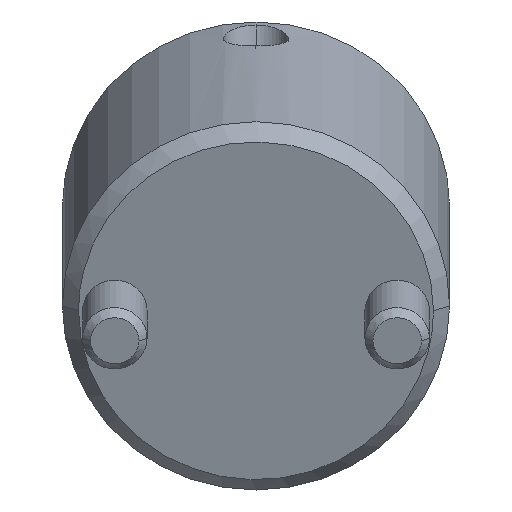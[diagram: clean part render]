
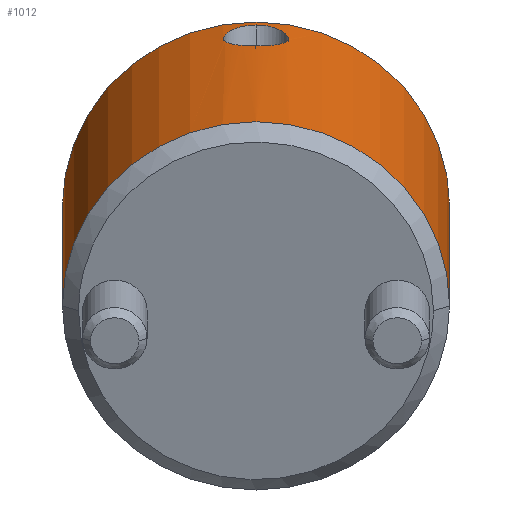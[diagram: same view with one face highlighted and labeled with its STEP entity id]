
A CAD part, front view. The second image highlights one B-rep face of the part: STEP entity #1012.
In plain terms, the highlighted cylindrical face has radius 12 mm (diameter 24 mm), a partial arc.
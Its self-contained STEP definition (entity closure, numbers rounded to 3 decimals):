
#778=CARTESIAN_POINT('Vertex',(0.,12.,1.)) ;
#781=CARTESIAN_POINT('Axis2P3D Location',(0.,0.,1.)) ;
#785=CARTESIAN_POINT('Vertex',(0.,-12.,1.)) ;
#925=CARTESIAN_POINT('Axis2P3D Location',(0.,0.,-1.1)) ;
#930=CARTESIAN_POINT('Line Origine',(0.,12.,-1.1)) ;
#934=CARTESIAN_POINT('Vertex',(0.,12.,21.)) ;
#937=CARTESIAN_POINT('Axis2P3D Location',(0.,0.,21.)) ;
#941=CARTESIAN_POINT('Vertex',(0.,-12.,21.)) ;
#944=CARTESIAN_POINT('Line Origine',(0.,-12.,-1.1)) ;
#956=CARTESIAN_POINT('Control Point',(12.,0.,20.403)) ;
#957=CARTESIAN_POINT('Control Point',(12.,0.341,20.403)) ;
#958=CARTESIAN_POINT('Control Point',(11.988,0.671,20.324)) ;
#959=CARTESIAN_POINT('Control Point',(11.964,0.986,20.166)) ;
#960=CARTESIAN_POINT('Control Point',(11.924,1.367,19.862)) ;
#961=CARTESIAN_POINT('Control Point',(11.886,1.651,19.463)) ;
#962=CARTESIAN_POINT('Control Point',(11.876,1.726,19.337)) ;
#963=CARTESIAN_POINT('Control Point',(11.856,1.854,19.075)) ;
#964=CARTESIAN_POINT('Control Point',(11.842,1.939,18.795)) ;
#965=CARTESIAN_POINT('Control Point',(11.837,1.97,18.649)) ;
#966=CARTESIAN_POINT('Control Point',(11.831,2.009,18.363)) ;
#967=CARTESIAN_POINT('Control Point',(11.832,2.,18.074)) ;
#968=CARTESIAN_POINT('Control Point',(11.835,1.984,17.931)) ;
#969=CARTESIAN_POINT('Control Point',(11.844,1.93,17.652)) ;
#970=CARTESIAN_POINT('Control Point',(11.86,1.83,17.388)) ;
#971=CARTESIAN_POINT('Control Point',(11.869,1.77,17.263)) ;
#972=CARTESIAN_POINT('Control Point',(11.89,1.629,17.023)) ;
#973=CARTESIAN_POINT('Control Point',(11.913,1.449,16.811)) ;
#974=CARTESIAN_POINT('Control Point',(11.924,1.351,16.714)) ;
#975=CARTESIAN_POINT('Control Point',(11.956,1.059,16.473)) ;
#976=CARTESIAN_POINT('Control Point',(11.982,0.714,16.305)) ;
#977=CARTESIAN_POINT('Control Point',(11.994,0.482,16.233)) ;
#978=CARTESIAN_POINT('Control Point',(12.,0.243,16.197)) ;
#979=CARTESIAN_POINT('Control Point',(12.,0.,16.197)) ;
#980=CARTESIAN_POINT('Vertex',(12.,0.,20.403)) ;
#982=CARTESIAN_POINT('Vertex',(12.,0.,16.197)) ;
#986=CARTESIAN_POINT('Control Point',(12.,0.,16.197)) ;
#987=CARTESIAN_POINT('Control Point',(12.,-0.277,16.197)) ;
#988=CARTESIAN_POINT('Control Point',(11.992,-0.549,16.243)) ;
#989=CARTESIAN_POINT('Control Point',(11.976,-0.815,16.339)) ;
#990=CARTESIAN_POINT('Control Point',(11.945,-1.178,16.546)) ;
#991=CARTESIAN_POINT('Control Point',(11.91,-1.473,16.837)) ;
#992=CARTESIAN_POINT('Control Point',(11.898,-1.562,16.941)) ;
#993=CARTESIAN_POINT('Control Point',(11.865,-1.806,17.285)) ;
#994=CARTESIAN_POINT('Control Point',(11.84,-1.957,17.684)) ;
#995=CARTESIAN_POINT('Control Point',(11.83,-2.011,17.97)) ;
#996=CARTESIAN_POINT('Control Point',(11.829,-2.022,18.405)) ;
#997=CARTESIAN_POINT('Control Point',(11.844,-1.93,18.83)) ;
#998=CARTESIAN_POINT('Control Point',(11.851,-1.887,18.97)) ;
#999=CARTESIAN_POINT('Control Point',(11.868,-1.78,19.243)) ;
#1000=CARTESIAN_POINT('Control Point',(11.889,-1.63,19.494)) ;
#1001=CARTESIAN_POINT('Control Point',(11.901,-1.545,19.614)) ;
#1002=CARTESIAN_POINT('Control Point',(11.937,-1.255,19.958)) ;
#1003=CARTESIAN_POINT('Control Point',(11.972,-0.885,20.214)) ;
#1004=CARTESIAN_POINT('Control Point',(11.99,-0.603,20.339)) ;
#1005=CARTESIAN_POINT('Control Point',(12.,-0.306,20.403)) ;
#1006=CARTESIAN_POINT('Control Point',(12.,0.,20.403)) ;
#782=DIRECTION('Axis2P3D Direction',(0.,0.,1.)) ;
#926=DIRECTION('Axis2P3D Direction',(0.,-0.,1.)) ;
#927=DIRECTION('Axis2P3D XDirection',(0.,-1.,0.)) ;
#931=DIRECTION('Vector Direction',(0.,0.,1.)) ;
#938=DIRECTION('Axis2P3D Direction',(0.,-0.,1.)) ;
#945=DIRECTION('Vector Direction',(0.,0.,1.)) ;
#783=AXIS2_PLACEMENT_3D('Circle Axis2P3D',#781,#782,$) ;
#928=AXIS2_PLACEMENT_3D('Cylinder Axis2P3D',#925,#926,#927) ;
#939=AXIS2_PLACEMENT_3D('Circle Axis2P3D',#937,#938,$) ;
#950=ORIENTED_EDGE('',*,*,#936,.F.) ;
#951=ORIENTED_EDGE('',*,*,#943,.T.) ;
#952=ORIENTED_EDGE('',*,*,#948,.T.) ;
#953=ORIENTED_EDGE('',*,*,#787,.F.) ;
#1009=ORIENTED_EDGE('',*,*,#984,.T.) ;
#1010=ORIENTED_EDGE('',*,*,#1007,.T.) ;
#1011=FACE_BOUND('',#1008,.T.) ;
#932=VECTOR('Line Direction',#931,1.) ;
#946=VECTOR('Line Direction',#945,1.) ;
#1012=ADVANCED_FACE('MANIFOLD_SOLID_BREP #1100',(#954,#1011),#929,.T.) ;
#955=B_SPLINE_CURVE_WITH_KNOTS('',5,(#956,#957,#958,#959,#960,#961,#962,#963,#964,#965,#966,#967,#968,#969,#970,#971,#972,#973,#974,#975,#976,#977,#978,#979),.UNSPECIFIED.,.F.,.U.,(6,3,3,3,3,3,3,6),(0.,2.411,3.437,4.458,5.457,6.442,7.421,9.138),.UNSPECIFIED.) ;
#985=B_SPLINE_CURVE_WITH_KNOTS('',5,(#986,#987,#988,#989,#990,#991,#992,#993,#994,#995,#996,#997,#998,#999,#1000,#1001,#1002,#1003,#1004,#1005,#1006),.UNSPECIFIED.,.F.,.U.,(6,3,3,3,3,3,6),(0.,1.96,2.94,4.935,5.963,6.984,9.144),.UNSPECIFIED.) ;
#784=CIRCLE('generated circle',#783,12.) ;
#940=CIRCLE('generated circle',#939,12.) ;
#929=CYLINDRICAL_SURFACE('generated cylinder',#928,12.) ;
#787=EDGE_CURVE('',#779,#786,#784,.F.) ;
#936=EDGE_CURVE('',#935,#779,#933,.F.) ;
#943=EDGE_CURVE('',#935,#942,#940,.F.) ;
#948=EDGE_CURVE('',#942,#786,#947,.F.) ;
#984=EDGE_CURVE('',#981,#983,#955,.T.) ;
#1007=EDGE_CURVE('',#983,#981,#985,.T.) ;
#949=EDGE_LOOP('',(#950,#951,#952,#953)) ;
#1008=EDGE_LOOP('',(#1009,#1010)) ;
#954=FACE_OUTER_BOUND('',#949,.T.) ;
#933=LINE('Line',#930,#932) ;
#947=LINE('Line',#944,#946) ;
#779=VERTEX_POINT('',#778) ;
#786=VERTEX_POINT('',#785) ;
#935=VERTEX_POINT('',#934) ;
#942=VERTEX_POINT('',#941) ;
#981=VERTEX_POINT('',#980) ;
#983=VERTEX_POINT('',#982) ;
